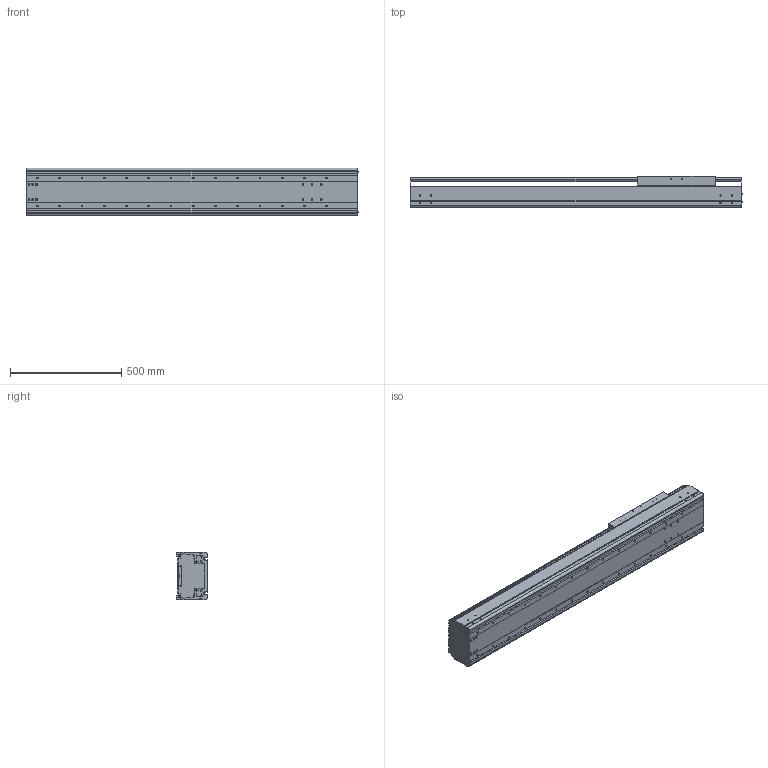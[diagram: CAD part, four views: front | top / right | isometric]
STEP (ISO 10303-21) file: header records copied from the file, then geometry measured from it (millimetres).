
FILE_DESCRIPTION((''),'2;1');
FILE_NAME('BE60J-ST-L_N-95_IGS_PRT','2017-06-18T',(' '),(''),'PRO/ENGINEER BY PARAMETRIC TECHNOLOGY CORPORATION, 2015030','PRO/ENGINEER BY PARAMETRIC TECHNOLOGY CORPORATION, 2015030','');
FILE_SCHEMA(('CONFIG_CONTROL_DESIGN'));
Length unit declared in the file: millimetre
Products named in the file (1): BE60J-ST-L_N-95_IGS_PRT
Bounding box: 1492.4 x 140 x 214 mm (x, y, z)
Volume: 11897475.4 mm3; surface area: 3223226.2 mm2
Topology: 2 solids, 118 shells, 1471 faces, 4120 edges, 2742 vertices
Faces by surface type: cylinder 760, plane 603, cone 60, sphere 24, torus 24
Entity records: 49406 total; most frequent: CARTESIAN_POINT 11007, DIRECTION 8032, ORIENTED_EDGE 7672, EDGE_CURVE 4064, AXIS2_PLACEMENT_3D 2992, VERTEX_POINT 2742, VECTOR 2048, LINE 2048
